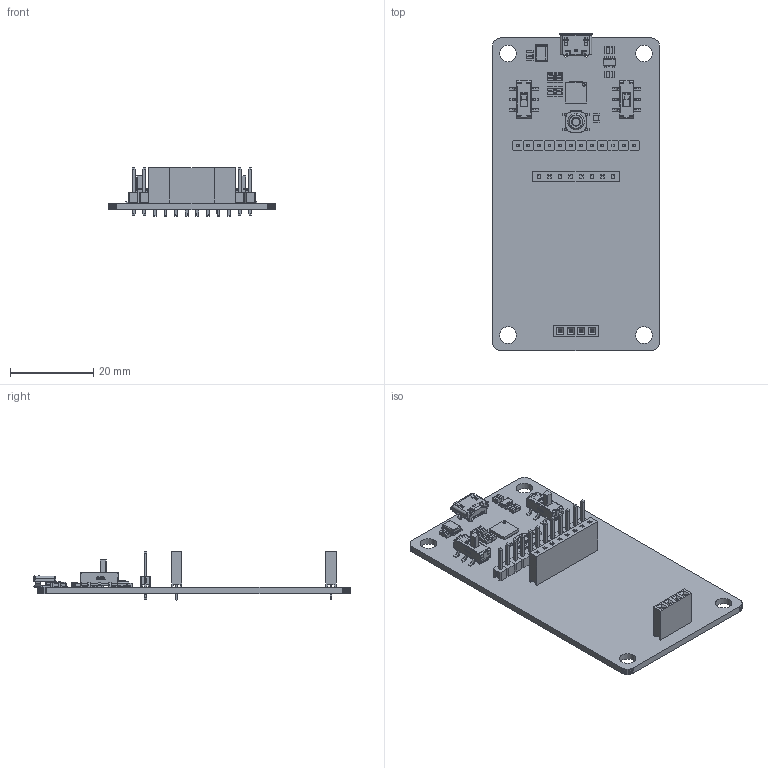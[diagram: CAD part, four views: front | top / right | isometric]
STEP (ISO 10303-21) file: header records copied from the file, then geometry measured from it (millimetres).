
FILE_DESCRIPTION(('KiCad electronic assembly'),'2;1');
FILE_NAME('fft_ex.step','2026-03-15T02:58:36',('Pcbnew'),('Kicad'), 'Open CASCADE STEP processor 7.7','KiCad to STEP converter','Unknown' );
FILE_SCHEMA(('AUTOMOTIVE_DESIGN { 1 0 10303 214 1 1 1 1 }'));
Length unit declared in the file: millimetre
Products named in the file (24): fft_ex 1; C0805C104K5RACTU; COMPOUND; CP2102N-A02-GQFN28; pinhead_female_4p; 1050170001; HDR2.54-M-LI-1X12P; K3-2235S-K1; TLV73333PQDBVRQ1; pinhead_female_8p; SOLID; PTS526_SM15_SMTR2_LFS; RC0805FR-10220RL; ICS-40720; fft_ex PCB
Assembly tree (30 placements, depth 3):
  fft_ex 1
    C0805C104K5RACTU  x7
      COMPOUND
    CP2102N-A02-GQFN28
      COMPOUND
    pinhead_female_4p
      COMPOUND
    1050170001
      COMPOUND
    HDR2.54-M-LI-1X12P
      COMPOUND
    K3-2235S-K1  x2
      COMPOUND
    TLV73333PQDBVRQ1
      COMPOUND
    pinhead_female_8p
      SOLID
    PTS526_SM15_SMTR2_LFS
      SOLID
    RC0805FR-10220RL
      COMPOUND
    ICS-40720
      COMPOUND
    fft_ex PCB
Bounding box: 40 x 76.1 x 11.7 mm (x, y, z)
Volume: 5764.7 mm3; surface area: 9578.1 mm2
Topology: 122 solids, 122 shells, 5342 faces, 13797 edges, 8844 vertices
Faces by surface type: plane 3711, cylinder 801, bspline 688, sphere 120, revolution 12, torus 8, cone 2
Full cylindrical faces by diameter (mm): 0.625 x1, 0.85 x2, 1.02 x24, 1.54 x1, 4 x4
Entity records: 293152 total; most frequent: CARTESIAN_POINT 74580, DIRECTION 34609, LINE 25612, VECTOR 25612, ORIENTED_EDGE 20770, PCURVE 20770, DEFINITIONAL_REPRESENTATION 20770, EDGE_CURVE 10385
